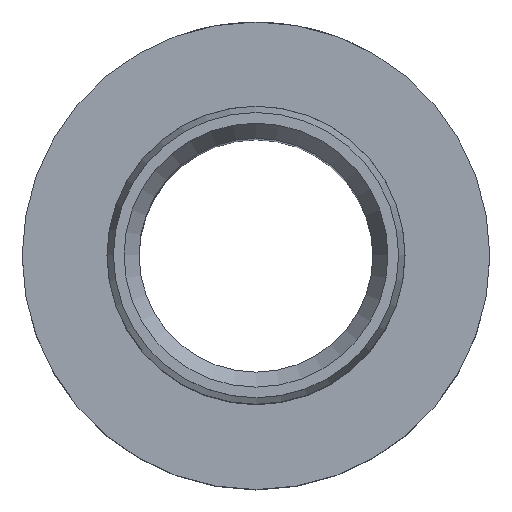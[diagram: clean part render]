
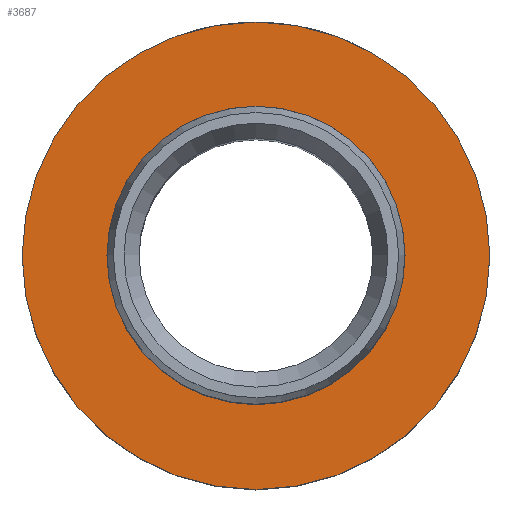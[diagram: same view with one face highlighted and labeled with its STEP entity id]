
A CAD part, top view. The second image highlights one B-rep face of the part: STEP entity #3687.
In plain terms, the highlighted planar face has unit normal (0, 0, 1).
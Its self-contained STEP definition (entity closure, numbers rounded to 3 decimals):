
#58=FACE_BOUND('',#607,.T.);
#128=PLANE('',#4009);
#393=FACE_OUTER_BOUND('',#606,.T.);
#606=EDGE_LOOP('',(#3266,#3267));
#607=EDGE_LOOP('',(#3268,#3269));
#1198=CIRCLE('',#4007,12.2);
#1199=CIRCLE('',#4008,12.2);
#1200=CIRCLE('',#4010,20.);
#1201=CIRCLE('',#4011,20.);
#1749=VERTEX_POINT('',#8324);
#1750=VERTEX_POINT('',#8325);
#1751=VERTEX_POINT('',#8330);
#1752=VERTEX_POINT('',#8331);
#2301=EDGE_CURVE('',#1749,#1750,#1198,.T.);
#2302=EDGE_CURVE('',#1750,#1749,#1199,.T.);
#2304=EDGE_CURVE('',#1751,#1752,#1200,.T.);
#2305=EDGE_CURVE('',#1752,#1751,#1201,.T.);
#3266=ORIENTED_EDGE('',*,*,#2304,.F.);
#3267=ORIENTED_EDGE('',*,*,#2305,.F.);
#3268=ORIENTED_EDGE('',*,*,#2301,.T.);
#3269=ORIENTED_EDGE('',*,*,#2302,.T.);
#3687=ADVANCED_FACE('',(#393,#58),#128,.T.);
#4007=AXIS2_PLACEMENT_3D('',#8326,#4815,#4816);
#4008=AXIS2_PLACEMENT_3D('',#8327,#4817,#4818);
#4009=AXIS2_PLACEMENT_3D('',#8329,#4820,#4821);
#4010=AXIS2_PLACEMENT_3D('',#8332,#4822,#4823);
#4011=AXIS2_PLACEMENT_3D('',#8333,#4824,#4825);
#4815=DIRECTION('center_axis',(0.,0.,-1.));
#4816=DIRECTION('ref_axis',(1.,0.,0.));
#4817=DIRECTION('center_axis',(0.,0.,-1.));
#4818=DIRECTION('ref_axis',(1.,0.,0.));
#4820=DIRECTION('center_axis',(0.,0.,1.));
#4821=DIRECTION('ref_axis',(1.,0.,0.));
#4822=DIRECTION('center_axis',(0.,0.,-1.));
#4823=DIRECTION('ref_axis',(1.,0.,0.));
#4824=DIRECTION('center_axis',(0.,0.,-1.));
#4825=DIRECTION('ref_axis',(1.,0.,0.));
#8324=CARTESIAN_POINT('',(0.,12.2,51.));
#8325=CARTESIAN_POINT('',(0.,-12.2,51.));
#8326=CARTESIAN_POINT('Origin',(0.,0.,51.));
#8327=CARTESIAN_POINT('Origin',(0.,0.,51.));
#8329=CARTESIAN_POINT('Origin',(0.,20.,51.));
#8330=CARTESIAN_POINT('',(0.,20.,51.));
#8331=CARTESIAN_POINT('',(0.,-20.,51.));
#8332=CARTESIAN_POINT('Origin',(0.,0.,51.));
#8333=CARTESIAN_POINT('Origin',(0.,0.,51.));
